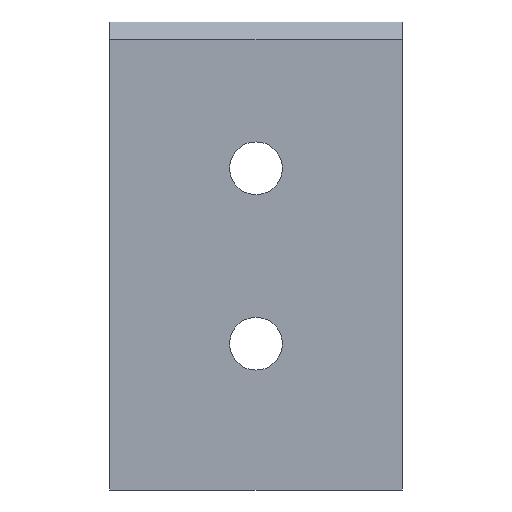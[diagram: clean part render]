
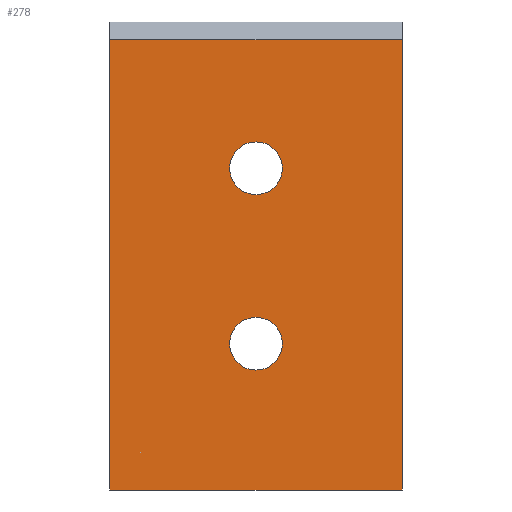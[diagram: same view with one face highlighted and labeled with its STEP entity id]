
A CAD part, front view. The second image highlights one B-rep face of the part: STEP entity #278.
In plain terms, the highlighted planar face has unit normal (0, -1, 0).
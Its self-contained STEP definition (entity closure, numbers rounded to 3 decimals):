
#50 = DIRECTION ( 'NONE',  ( 0., 0., -1. ) ) ;
#88 = FACE_BOUND ( 'NONE', #478, .T. ) ;
#99 = CARTESIAN_POINT ( 'NONE',  ( 29.5, 0., 25. ) ) ;
#168 = EDGE_CURVE ( 'NONE', #1149, #1098, #2197, .T. ) ;
#183 = LINE ( 'NONE', #2102, #779 ) ;
#238 = VERTEX_POINT ( 'NONE', #1637 ) ;
#278 = ADVANCED_FACE ( 'NONE', ( #807, #88, #982 ), #2090, .T. ) ;
#360 = VERTEX_POINT ( 'NONE', #3100 ) ;
#421 = DIRECTION ( 'NONE',  ( 0., -1., 0. ) ) ;
#432 = DIRECTION ( 'NONE',  ( 1., 0., 0. ) ) ;
#474 = CARTESIAN_POINT ( 'NONE',  ( 25., 0., 25. ) ) ;
#478 = EDGE_LOOP ( 'NONE', ( #2944, #2679 ) ) ;
#480 = ORIENTED_EDGE ( 'NONE', *, *, #2070, .F. ) ;
#547 = EDGE_LOOP ( 'NONE', ( #2162, #2209, #3194, #2005 ) ) ;
#580 = CARTESIAN_POINT ( 'NONE',  ( 20.5, 0., 25. ) ) ;
#593 = VERTEX_POINT ( 'NONE', #764 ) ;
#727 = CARTESIAN_POINT ( 'NONE',  ( 29.5, 0., 55. ) ) ;
#764 = CARTESIAN_POINT ( 'NONE',  ( 0., 0., 77. ) ) ;
#779 = VECTOR ( 'NONE', #1053, 1000. ) ;
#807 = FACE_OUTER_BOUND ( 'NONE', #547, .T. ) ;
#820 = AXIS2_PLACEMENT_3D ( 'NONE', #2833, #1553, #2720 ) ;
#822 = CARTESIAN_POINT ( 'NONE',  ( 25., 0., 55. ) ) ;
#827 = DIRECTION ( 'NONE',  ( 0., 0., -1. ) ) ;
#863 = VERTEX_POINT ( 'NONE', #727 ) ;
#982 = FACE_BOUND ( 'NONE', #1333, .T. ) ;
#1053 = DIRECTION ( 'NONE',  ( 0., 0., -1. ) ) ;
#1098 = VERTEX_POINT ( 'NONE', #99 ) ;
#1100 = CARTESIAN_POINT ( 'NONE',  ( 0., 0., 38.5 ) ) ;
#1117 = EDGE_CURVE ( 'NONE', #2267, #360, #183, .T. ) ;
#1149 = VERTEX_POINT ( 'NONE', #580 ) ;
#1294 = DIRECTION ( 'NONE',  ( 1., 0., 0. ) ) ;
#1333 = EDGE_LOOP ( 'NONE', ( #480, #2345 ) ) ;
#1346 = LINE ( 'NONE', #1428, #2434 ) ;
#1356 = DIRECTION ( 'NONE',  ( 1., 0., 0. ) ) ;
#1363 = AXIS2_PLACEMENT_3D ( 'NONE', #2842, #2825, #2819 ) ;
#1428 = CARTESIAN_POINT ( 'NONE',  ( 25., 0., 0. ) ) ;
#1512 = CIRCLE ( 'NONE', #3097, 4.5 ) ;
#1553 = DIRECTION ( 'NONE',  ( 0., -1., 0. ) ) ;
#1637 = CARTESIAN_POINT ( 'NONE',  ( 0., 0., 0. ) ) ;
#1643 = CARTESIAN_POINT ( 'NONE',  ( 20.5, 0., 55. ) ) ;
#1695 = AXIS2_PLACEMENT_3D ( 'NONE', #474, #421, #432 ) ;
#1759 = VECTOR ( 'NONE', #827, 1000. ) ;
#1764 = CIRCLE ( 'NONE', #820, 4.5 ) ;
#1806 = EDGE_CURVE ( 'NONE', #238, #360, #1346, .T. ) ;
#2005 = ORIENTED_EDGE ( 'NONE', *, *, #2096, .F. ) ;
#2070 = EDGE_CURVE ( 'NONE', #863, #2902, #1764, .T. ) ;
#2090 = PLANE ( 'NONE',  #2760 ) ;
#2096 = EDGE_CURVE ( 'NONE', #593, #2267, #2320, .T. ) ;
#2102 = CARTESIAN_POINT ( 'NONE',  ( 50., 0., 38.5 ) ) ;
#2134 = DIRECTION ( 'NONE',  ( 1., 0., 0. ) ) ;
#2162 = ORIENTED_EDGE ( 'NONE', *, *, #2492, .T. ) ;
#2197 = CIRCLE ( 'NONE', #1695, 4.5 ) ;
#2209 = ORIENTED_EDGE ( 'NONE', *, *, #1806, .T. ) ;
#2247 = VECTOR ( 'NONE', #2134, 1000. ) ;
#2267 = VERTEX_POINT ( 'NONE', #3104 ) ;
#2285 = EDGE_CURVE ( 'NONE', #1098, #1149, #2564, .T. ) ;
#2310 = CARTESIAN_POINT ( 'NONE',  ( 0., 0., 80. ) ) ;
#2320 = LINE ( 'NONE', #2826, #2247 ) ;
#2345 = ORIENTED_EDGE ( 'NONE', *, *, #2645, .F. ) ;
#2434 = VECTOR ( 'NONE', #1356, 1000. ) ;
#2492 = EDGE_CURVE ( 'NONE', #593, #238, #3098, .T. ) ;
#2564 = CIRCLE ( 'NONE', #1363, 4.5 ) ;
#2645 = EDGE_CURVE ( 'NONE', #2902, #863, #1512, .T. ) ;
#2679 = ORIENTED_EDGE ( 'NONE', *, *, #2285, .F. ) ;
#2720 = DIRECTION ( 'NONE',  ( 1., 0., 0. ) ) ;
#2731 = DIRECTION ( 'NONE',  ( 0., -1., 0. ) ) ;
#2760 = AXIS2_PLACEMENT_3D ( 'NONE', #2310, #3179, #50 ) ;
#2819 = DIRECTION ( 'NONE',  ( 1., 0., 0. ) ) ;
#2825 = DIRECTION ( 'NONE',  ( 0., -1., 0. ) ) ;
#2826 = CARTESIAN_POINT ( 'NONE',  ( 25., 0., 77. ) ) ;
#2833 = CARTESIAN_POINT ( 'NONE',  ( 25., 0., 55. ) ) ;
#2842 = CARTESIAN_POINT ( 'NONE',  ( 25., 0., 25. ) ) ;
#2902 = VERTEX_POINT ( 'NONE', #1643 ) ;
#2944 = ORIENTED_EDGE ( 'NONE', *, *, #168, .F. ) ;
#3097 = AXIS2_PLACEMENT_3D ( 'NONE', #822, #2731, #1294 ) ;
#3098 = LINE ( 'NONE', #1100, #1759 ) ;
#3100 = CARTESIAN_POINT ( 'NONE',  ( 50., 0., 0. ) ) ;
#3104 = CARTESIAN_POINT ( 'NONE',  ( 50., 0., 77. ) ) ;
#3179 = DIRECTION ( 'NONE',  ( 0., -1., 0. ) ) ;
#3194 = ORIENTED_EDGE ( 'NONE', *, *, #1117, .F. ) ;
